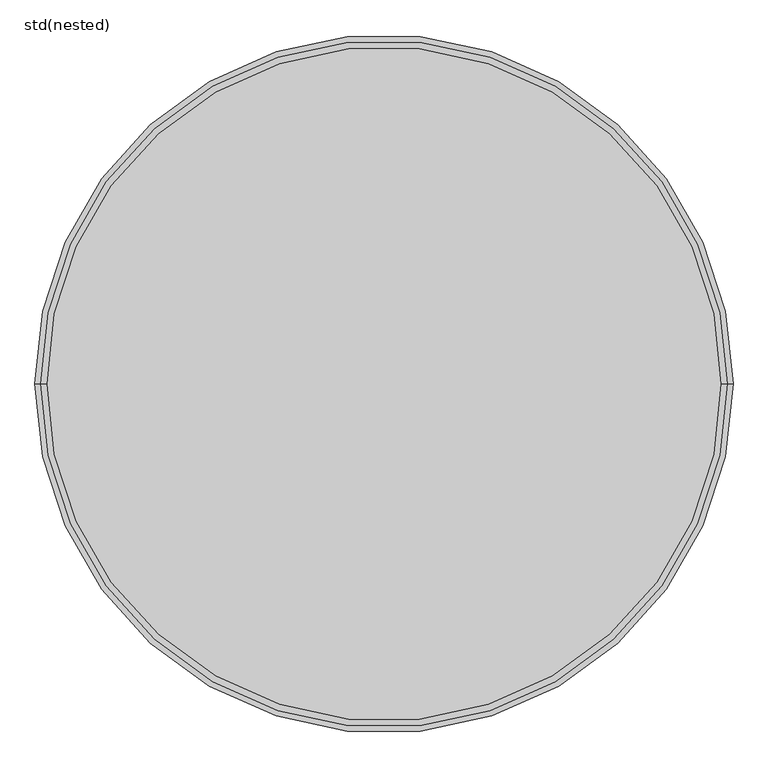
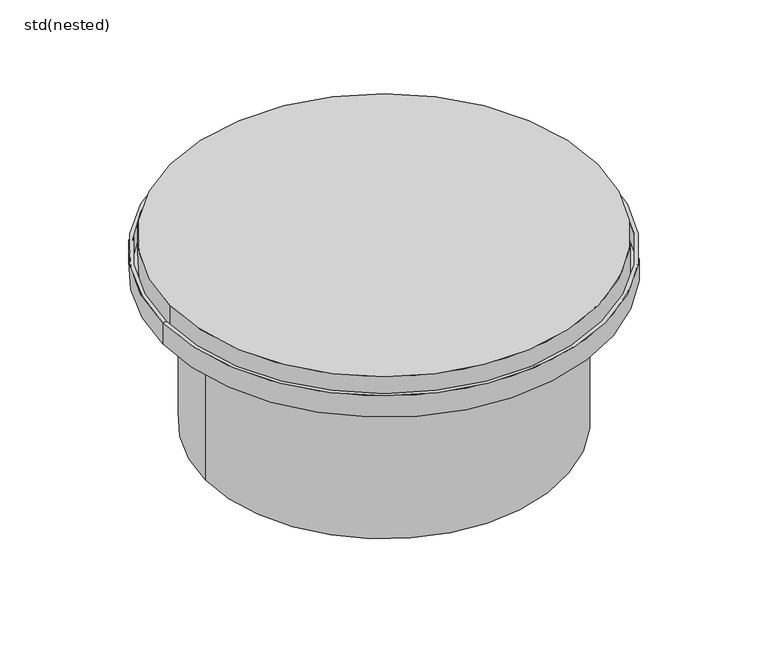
"""IFC4 building model written with IfcOpenShell, lengths in millimetres: unitary equipment geometry, ZZZ_do not use_ME_WPB_top sections_plastic_ACO : std(nested)."""

from ifc_helpers import new_model, si_unit, point, frame, origin, origin_2d, place, context, project, spatial, polyline, circle_curve, trimmed, segment, composite_curve, outline, extrude, source, transform, mapped, element, save
from ifc_brep_helpers import plane_surface, cylinder_surface, revolved_surface, advanced_brep


def std_nested_ab5ed908(model_context):
    return source(origin(), model_context, "Body", "SolidModel", [
        advanced_brep(
        [(-510.0, 0.0, -35.0), (510.0, 0.0, -35.0), (518.0, 0.0, -35.0), (-518.0, 0.0, -35.0), (-510.0, 0.0, -80.0), (510.0, 0.0, -80.0), (-410.0, 0.0, -80.0), (410.0, 0.0, -80.0), (-410.0, 0.0, -459.0), (410.0, 0.0, -459.0), (-418.0, 0.0, -459.0), (418.0, 0.0, -459.0), (-418.0, 0.0, -88.0), (418.0, 0.0, -88.0), (-518.0, 0.0, -88.0), (518.0, 0.0, -88.0)],
        [
            (0, 1, circle_curve(frame((0.0, 0.0, -35.0), z_axis=(0.0, 0.0, -1.0), x_axis=(1.0, 0.0, 0.0)), 510.0)),
            (1, 2),
            (2, 3, circle_curve(frame((0.0, 0.0, -35.0), z_axis=(0.0, 0.0, 1.0), x_axis=(1.0, 0.0, 0.0)), 518.0)),
            (3, 0),
            (1, 0, circle_curve(frame((0.0, 0.0, -35.0), z_axis=(0.0, 0.0, -1.0), x_axis=(1.0, 0.0, 0.0)), 510.0)),
            (3, 2, circle_curve(frame((0.0, 0.0, -35.0), z_axis=(0.0, 0.0, 1.0), x_axis=(1.0, 0.0, 0.0)), 518.0)),
            (4, 5, circle_curve(frame((0.0, 0.0, -80.0), z_axis=(0.0, 0.0, -1.0), x_axis=(1.0, 0.0, 0.0)), 510.0)),
            (5, 1),
            (0, 4),
            (5, 4, circle_curve(frame((0.0, 0.0, -80.0), z_axis=(0.0, 0.0, -1.0), x_axis=(1.0, 0.0, 0.0)), 510.0)),
            (6, 7, circle_curve(frame((0.0, 0.0, -80.0), z_axis=(0.0, 0.0, -1.0), x_axis=(1.0, 0.0, 0.0)), 410.0)),
            (7, 5),
            (4, 6),
            (7, 6, circle_curve(frame((0.0, 0.0, -80.0), z_axis=(0.0, 0.0, -1.0), x_axis=(1.0, 0.0, 0.0)), 410.0)),
            (8, 9, circle_curve(frame((0.0, 0.0, -459.0), z_axis=(0.0, 0.0, -1.0), x_axis=(1.0, 0.0, 0.0)), 410.0)),
            (9, 7),
            (6, 8),
            (9, 8, circle_curve(frame((0.0, 0.0, -459.0), z_axis=(0.0, 0.0, -1.0), x_axis=(1.0, 0.0, 0.0)), 410.0)),
            (10, 11, circle_curve(frame((0.0, 0.0, -459.0), z_axis=(0.0, 0.0, -1.0), x_axis=(1.0, 0.0, 0.0)), 418.0)),
            (11, 9),
            (8, 10),
            (11, 10, circle_curve(frame((0.0, 0.0, -459.0), z_axis=(0.0, 0.0, -1.0), x_axis=(1.0, 0.0, 0.0)), 418.0)),
            (12, 13, circle_curve(frame((0.0, 0.0, -88.0), z_axis=(0.0, 0.0, -1.0), x_axis=(1.0, 0.0, 0.0)), 418.0)),
            (13, 11),
            (10, 12),
            (13, 12, circle_curve(frame((0.0, 0.0, -88.0), z_axis=(0.0, 0.0, -1.0), x_axis=(1.0, 0.0, 0.0)), 418.0)),
            (14, 15, circle_curve(frame((0.0, 0.0, -88.0), z_axis=(0.0, 0.0, -1.0), x_axis=(1.0, 0.0, 0.0)), 518.0)),
            (15, 13),
            (12, 14),
            (15, 14, circle_curve(frame((0.0, 0.0, -88.0), z_axis=(0.0, 0.0, -1.0), x_axis=(1.0, 0.0, 0.0)), 518.0)),
            (2, 15),
            (14, 3),
        ],
        [
            plane_surface(frame((0.0, 0.0, -35.0), z_axis=(0.0, 0.0, 1.0), x_axis=(1.0, 0.0, 0.0))),
            revolved_surface(polyline([(510.0, 0.0, -35.0), (510.0, 0.0, -80.0)]), (0.0, 0.0, 240.0), (0.0, 0.0, 1.0)),
            plane_surface(frame((0.0, 0.0, -80.0), z_axis=(0.0, 0.0, 1.0), x_axis=(1.0, 0.0, 0.0))),
            revolved_surface(polyline([(410.0, 0.0, -80.0), (410.0, 0.0, -459.0)]), (0.0, 0.0, 240.0), (0.0, 0.0, 1.0)),
            plane_surface(frame((0.0, 0.0, -459.0), z_axis=(0.0, 0.0, -1.0), x_axis=(1.0, 0.0, 0.0))),
            cylinder_surface(frame((0.0, 0.0, 240.0), z_axis=(0.0, 0.0, 1.0), x_axis=(1.0, 0.0, 0.0)), 418.0),
            plane_surface(frame((0.0, 0.0, -88.0), z_axis=(0.0, 0.0, -1.0), x_axis=(1.0, 0.0, 0.0))),
            cylinder_surface(frame((0.0, 0.0, 240.0), z_axis=(0.0, 0.0, 1.0), x_axis=(1.0, 0.0, 0.0)), 518.0),
        ],
        [
            (0, [[1, 2, 3, 4]]),
            (0, [[5, -4, 6, -2]]),
            (1, [[7, 8, -1, 9]]),
            (1, [[10, -9, -5, -8]]),
            (2, [[11, 12, -7, 13]]),
            (2, [[14, -13, -10, -12]]),
            (3, [[15, 16, -11, 17]]),
            (3, [[18, -17, -14, -16]]),
            (4, [[19, 20, -15, 21]]),
            (4, [[22, -21, -18, -20]]),
            (5, [[23, 24, -19, 25]]),
            (5, [[26, -25, -22, -24]]),
            (6, [[27, 28, -23, 29]]),
            (6, [[30, -29, -26, -28]]),
            (7, [[-3, 31, -27, 32]]),
            (7, [[-6, -32, -30, -31]]),
        ],
    ),
        extrude(outline(composite_curve([segment(trimmed(circle_curve(origin_2d(), 500.0), [point((-500.0, 0.0))], [point((500.0, 0.0))], False, "CARTESIAN"), True, "CONTINUOUS"), segment(trimmed(circle_curve(origin_2d(), 500.0), [point((500.0, 0.0))], [point((-500.0, 0.0))], False, "CARTESIAN"), True, "CONTINUOUS")], self_intersect=False)), frame((0.0, 0.0, -80.0), z_axis=(0.0, 0.0, 1.0), x_axis=(1.0, 0.0, 0.0)), (0.0, 0.0, 1.0), 80.0),
    ])


if __name__ == "__main__":
    model = new_model("IFC4")
    model_context = context("Model", 3, world=origin())
    ifc_project = project(units=[si_unit("LENGTHUNIT", "METRE", prefix="MILLI")], contexts=[model_context])
    site = spatial("IfcSite", under=ifc_project)
    building = spatial("IfcBuilding", under=site)
    placement = place(None, origin())
    std_nested_shape = std_nested_ab5ed908(model_context)
    element("IfcUnitaryEquipment", 1, ObjectType="ZZZ_do not use_ME_WPB_top sections_plastic_ACO : std(nested)", at=placement, inside=building, context=model_context, shape_type="MappedRepresentation", body=[
        mapped(std_nested_shape, transform((0.0, 0.0, 0.0), x_axis=(1.0, 0.0, 0.0), y_axis=(0.0, 1.0, 0.0), z_axis=(0.0, 0.0, 1.0))),
    ])
    save(model, "model.ifc")
